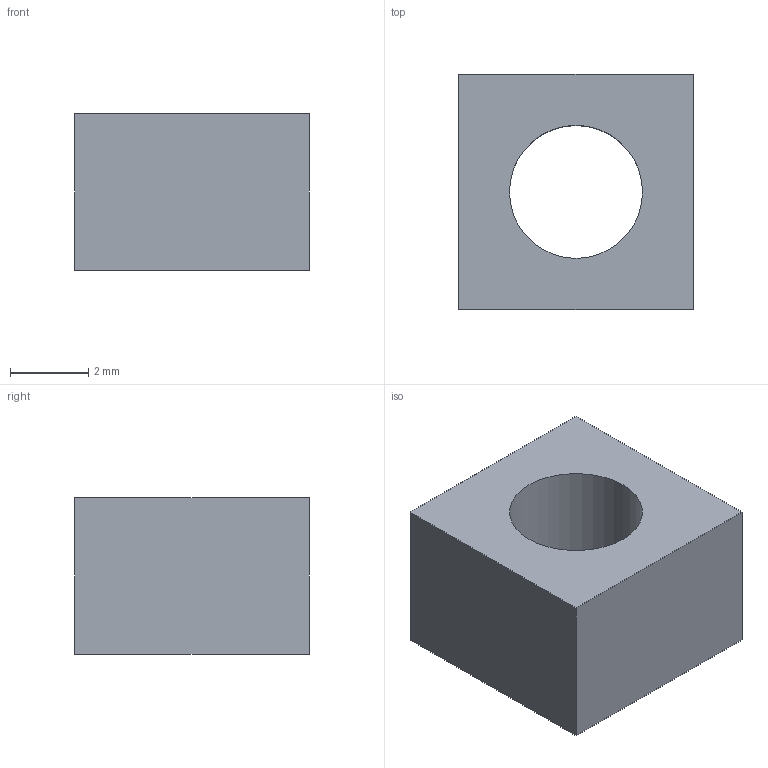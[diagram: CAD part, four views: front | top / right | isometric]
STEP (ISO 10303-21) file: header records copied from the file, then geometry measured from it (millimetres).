
FILE_DESCRIPTION(('Open CASCADE Model'),'2;1');
FILE_NAME('Open CASCADE Shape Model','2026-11-24T19:57:40',('Author'),( 'Open CASCADE'),'Open CASCADE STEP processor 7.8','Open CASCADE 7.8' ,'Unknown');
FILE_SCHEMA(('AUTOMOTIVE_DESIGN { 1 0 10303 214 1 1 1 1 }'));
Length unit declared in the file: millimetre
Products named in the file (1): Open CASCADE STEP translator 7.8 182
Bounding box: 6 x 6 x 4 mm (x, y, z)
Volume: 107.7 mm3; surface area: 192.6 mm2
Topology: 1 solids, 1 shells, 7 faces, 15 edges, 10 vertices
Faces by surface type: plane 6, cylinder 1
Full cylindrical faces by diameter (mm): 3.4 x1
Entity records: 399 total; most frequent: CARTESIAN_POINT 64, DIRECTION 62, LINE 40, VECTOR 40, ORIENTED_EDGE 30, PCURVE 30, DEFINITIONAL_REPRESENTATION 30, EDGE_CURVE 15
